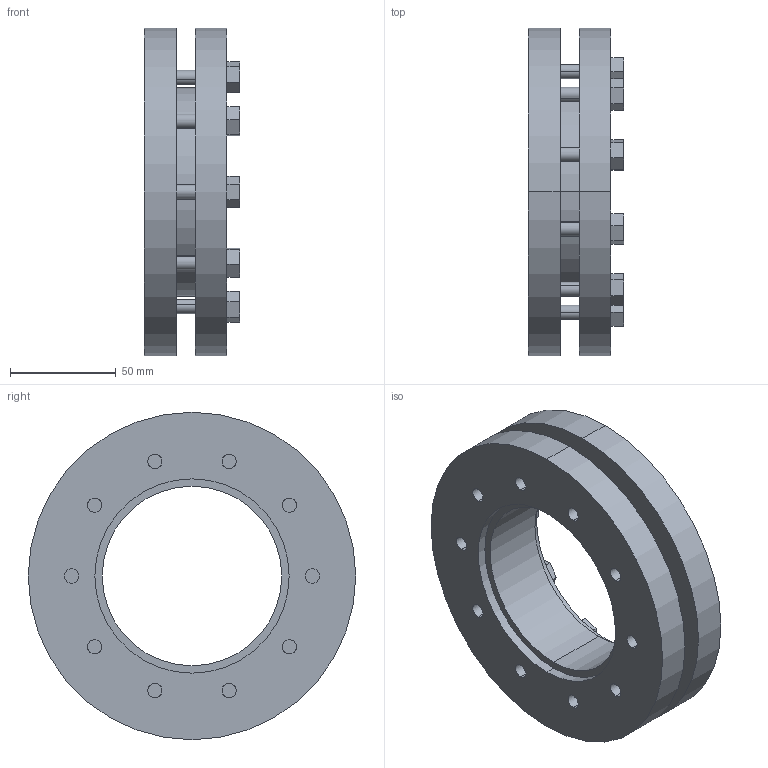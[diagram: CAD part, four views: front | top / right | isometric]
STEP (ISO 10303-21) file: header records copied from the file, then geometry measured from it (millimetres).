
FILE_DESCRIPTION (( 'STEP AP203' ), '1' );
FILE_NAME ('SSD-85.STEP', '2009-09-29T17:41:35', ( 'USER' ), ( 'HOME' ), 'SwSTEP 2.0', 'SolidWorks 2007', '' );
FILE_SCHEMA (( 'CONFIG_CONTROL_DESIGN' ));
Length unit declared in the file: millimetre
Products named in the file (1): SSD-85
Bounding box: 45 x 155 x 155 mm (x, y, z)
Volume: 413709.7 mm3; surface area: 93532.8 mm2
Topology: 11 solids, 11 shells, 168 faces, 396 edges, 264 vertices
Faces by surface type: plane 96, cylinder 72
Entity records: 5005 total; most frequent: DIRECTION 878, CARTESIAN_POINT 829, ORIENTED_EDGE 792, EDGE_CURVE 396, AXIS2_PLACEMENT_3D 313, VERTEX_POINT 264, LINE 252, VECTOR 252
